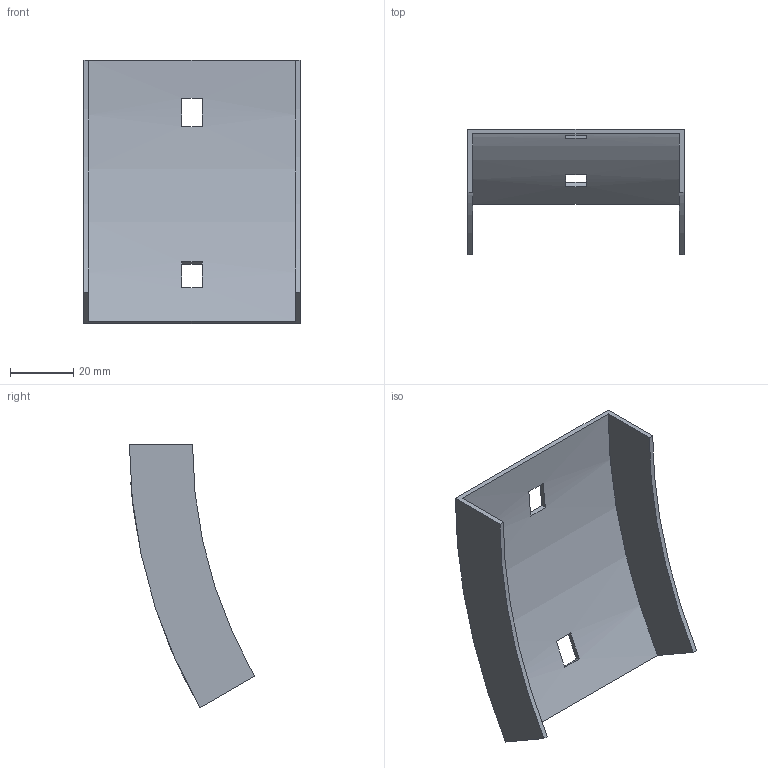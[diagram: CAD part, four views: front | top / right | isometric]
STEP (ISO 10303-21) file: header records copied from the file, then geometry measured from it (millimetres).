
FILE_DESCRIPTION (( 'STEP AP214' ), '1' );
FILE_NAME ('35N1H065.step', '2025-02-21T09:12:16', ( '' ), ( '' ), 'SwSTEP 2.0', 'SolidWorks 2023', '' );
FILE_SCHEMA (( 'AUTOMOTIVE_DESIGN' ));
Length unit declared in the file: millimetre
Products named in the file (1): 35N1H065
Bounding box: 68.5 x 39.69 x 83.5 mm (x, y, z)
Volume: 13308.4 mm3; surface area: 18386.6 mm2
Topology: 1 solids, 1 shells, 18 faces, 48 edges, 32 vertices
Faces by surface type: plane 14, cylinder 4
Entity records: 599 total; most frequent: DIRECTION 102, CARTESIAN_POINT 99, ORIENTED_EDGE 96, EDGE_CURVE 48, AXIS2_PLACEMENT_3D 35, LINE 32, VECTOR 32, VERTEX_POINT 32
